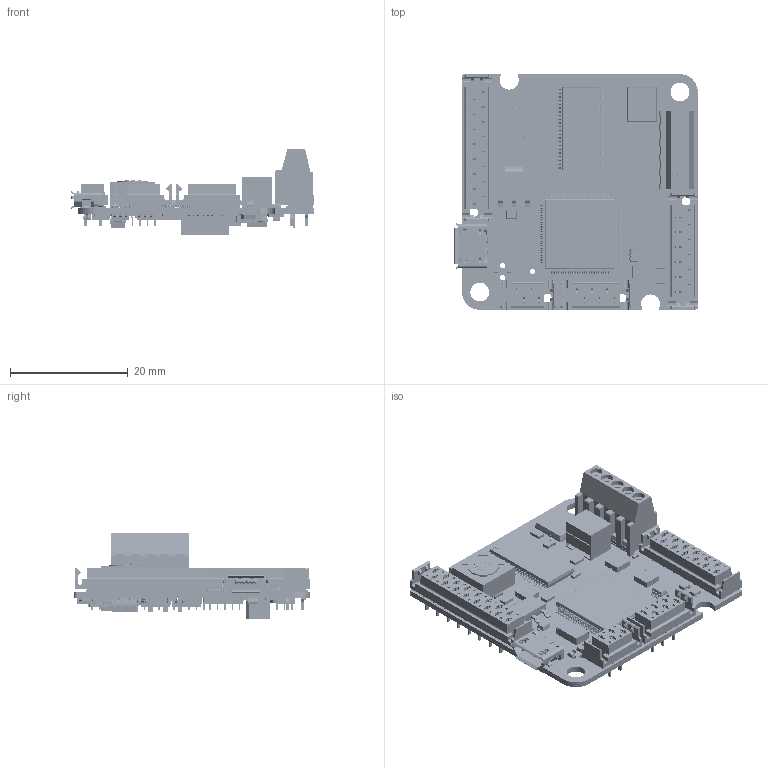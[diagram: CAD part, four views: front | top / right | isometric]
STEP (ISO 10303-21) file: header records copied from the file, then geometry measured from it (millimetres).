
FILE_DESCRIPTION (( 'STEP AP214' ), '1' );
FILE_NAME ('i032-01H1(BASIC_VARIANT).step', '2015-05-21T13:43:31', ( '' ), ( '' ), 'SwSTEP 2.0', 'SolidWorks 2014', '' );
FILE_SCHEMA (( 'AUTOMOTIVE_DESIGN' ));
Length unit declared in the file: millimetre
Products named in the file (286): SW3dPS-SOD-323F_358337745; 44HTSSOP; User_Library-SOD-323; RN5i032-01H1; 510459280; C109i032-01H1; U12i032-01H1; D10i032-01H1; SW3DPS-SOT-23-5-DEFAULT; P3i032-01H1; SW3dPS-SOD-323F_358339793; U1i032-01H1; 601419216; FD9i032-01H1; C107i032-01H1; P1i032-01H1; SW3dPS-SOD-323F_Extruded6; Q2i032-01H1; FB3i032-01H1; Extruded_13; C65i032-01H1; SW3dPS-SOD-323F_Extruded11; Cylinder_2; FB1i032-01H1; Q6i032-01H1; C46i032-01H1; 601417680; FD8i032-01H1; Sphere_9; C91i032-01H1; SW3dPS-SOD-323F_358338001; Extruded_23; L3i032-01H1; D17i032-01H1; User_Library-LFCSP_LFCSP_K_X_F6rper_2; RN4i032-01H1; R_0603; 598465200; User_Library-Chip_Inductor0805; ORIGIN1i032-01H1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
Assembly tree (498 placements, depth 8):
  i032-01H1(BASIC_VARIANT)
    Boardi032-01H1
    D10i032-01H1
      User_Library-SOD-323
    R30i032-01H1
      R_0402
    D7i032-01H1
      SW3dPS-SOD-323F
        SW3dPS-SOD-323F_Board5
        SW3dPS-SOD-323F_Free-Models3
          SW3dPS-SOD-323F_BODYSOD323F_3  x2
            SW3dPS-SOD-323F_Free-Models4
              SW3dPS-SOD-323F_358340561
                SW3dPS-SOD-323F_Extruded9
            SW3dPS-SOD-323F_Board4
          SW3dPS-SOD-323F_358337361  x2
            SW3dPS-SOD-323F_Extruded8
          SW3dPS-SOD-323F_BODYSOD323F_4  x2
            SW3dPS-SOD-323F_Free-Models5
              SW3dPS-SOD-323F_358339793
                SW3dPS-SOD-323F_Extruded10
            SW3dPS-SOD-323F_Board3
          SW3dPS-SOD-323F_358338001
            SW3dPS-SOD-323F_Extruded7
          SW3dPS-SOD-323F_358337489
            SW3dPS-SOD-323F_Extruded6
          SW3dPS-SOD-323F_358337745
            SW3dPS-SOD-323F_Extruded11
    R52i032-01H1
      R_0603
    R47i032-01H1
      R_0603
    C109i032-01H1
      C_0805
    C112i032-01H1
      C_0805
    C75i032-01H1
      C_0805
    C43i032-01H1
      C_0805
    C111i032-01H1
      C_0603
    C49i032-01H1
      C_0805
    C107i032-01H1
      C_1206
    C110i032-01H1
      C_0603
    C108i032-01H1
      C_0603
    C114i032-01H1
      C_0603
    C30i032-01H1
      C_0805
    C81i032-01H1
      C_0805
    C65i032-01H1
      C_0805
    C57i032-01H1
      C_0402
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Bounding box: 41.34 x 40.02 x 14.66 mm (x, y, z)
Volume: 4252.7 mm3; surface area: 10173.3 mm2
Topology: 460 solids, 1213 shells, 13040 faces, 35951 edges, 24701 vertices
Faces by surface type: plane 10061, cylinder 2666, sphere 172, bspline 131, cone 10
Entity records: 384075 total; most frequent: CARTESIAN_POINT 62282, ORIENTED_EDGE 50924, DIRECTION 50537, EDGE_CURVE 27364, LINE 22221, VECTOR 22221, VERTEX_POINT 19163, AXIS2_PLACEMENT_3D 14158
